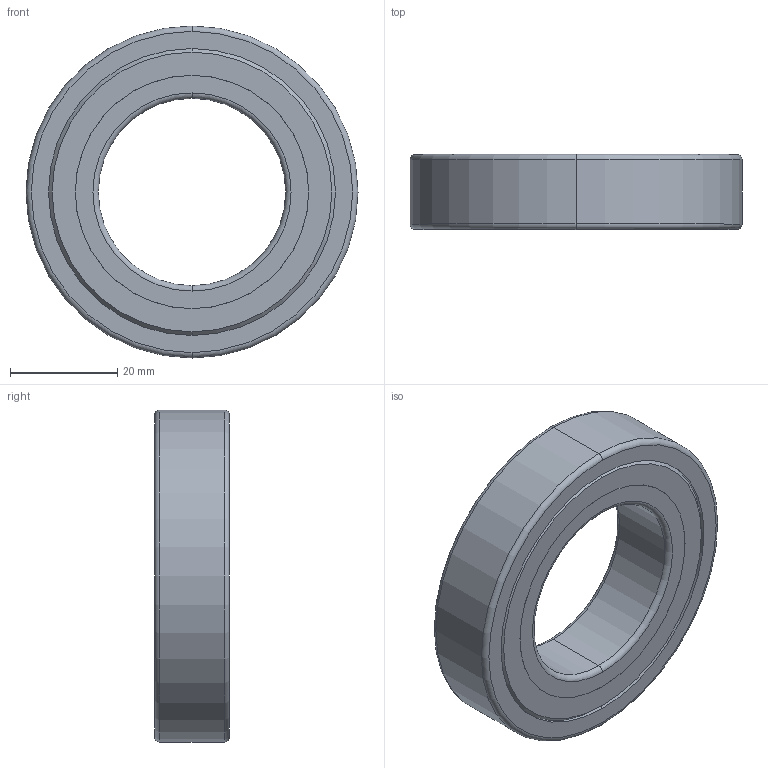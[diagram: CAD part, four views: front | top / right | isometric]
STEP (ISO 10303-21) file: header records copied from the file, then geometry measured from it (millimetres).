
FILE_DESCRIPTION (( 'STEP AP214' ), '1' );
FILE_NAME ('4.0003 Laakeri 6007 ZZ LSB.STEP', '2025-09-23T09:31:09', ( '' ), ( '' ), 'SwSTEP 2.0', 'SolidWorks 2025', '' );
FILE_SCHEMA (( 'AUTOMOTIVE_DESIGN' ));
Length unit declared in the file: millimetre
Products named in the file (1): 4.0003 Laakeri 6007 ZZ LSB
Bounding box: 62 x 14 x 62 mm (x, y, z)
Volume: 23038.9 mm3; surface area: 18196.3 mm2
Topology: 18 solids, 18 shells, 122 faces, 308 edges, 166 vertices
Faces by surface type: sphere 64, cylinder 28, torus 14, plane 12, cone 4
Entity records: 3184 total; most frequent: DIRECTION 638, CARTESIAN_POINT 469, ORIENTED_EDGE 424, AXIS2_PLACEMENT_3D 303, EDGE_CURVE 212, CIRCLE 180, EDGE_LOOP 134, VERTEX_POINT 134
